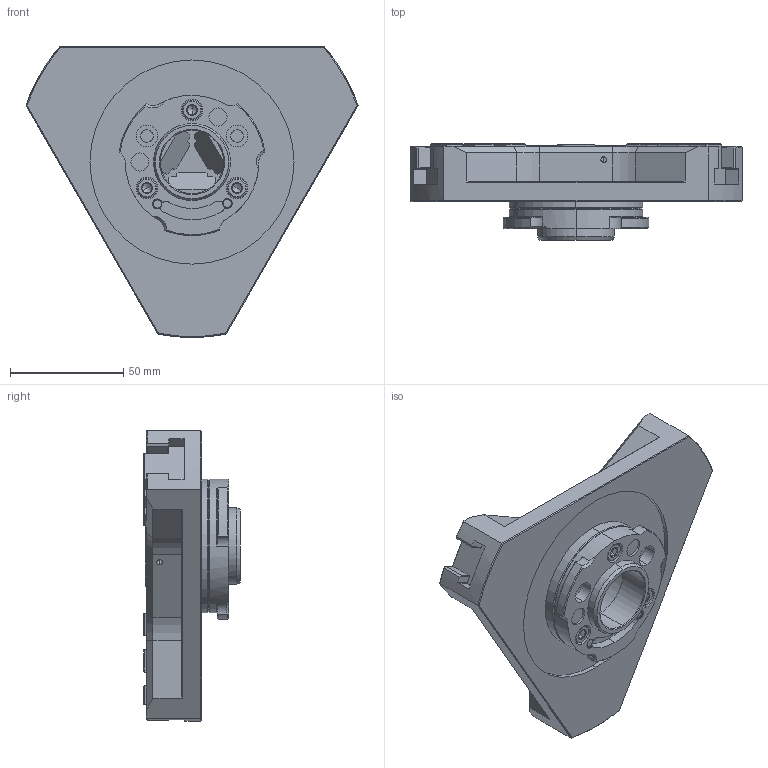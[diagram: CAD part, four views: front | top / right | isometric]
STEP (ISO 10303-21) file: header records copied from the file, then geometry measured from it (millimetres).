
FILE_DESCRIPTION (( 'STEP AP214' ), '1' );
FILE_NAME ('HP-QG30815-Assy-61G841491-20241129-OC.STEP', '2024-11-29T01:06:04', ( '' ), ( '' ), 'SwSTEP 2.0', 'SolidWorks 2022', '' );
FILE_SCHEMA (( 'AUTOMOTIVE_DESIGN' ));
Length unit declared in the file: millimetre
Products named in the file (8): HEIKOU PIN^HP-QG30815; MASTER JAW^HP-QG30815; BODY^HP-QG30815; RING^HP-QG30815; HP-QG30815-Assy-61G841491-20241129-OC; S-SARA^HP-QG30815; COVER^HP-QG30815; BOLT^HP-QG30815
Assembly tree (14 placements, depth 2):
  HP-QG30815-Assy-61G841491-20241129-OC
    BODY^HP-QG30815
    RING^HP-QG30815
    COVER^HP-QG30815
    MASTER JAW^HP-QG30815  x3
    BOLT^HP-QG30815  x3
    S-SARA^HP-QG30815  x3
    HEIKOU PIN^HP-QG30815  x2
Bounding box: 146.69 x 42.5 x 128.47 mm (x, y, z)
Volume: 242171.4 mm3; surface area: 77569.3 mm2
Topology: 14 solids, 14 shells, 1748 faces, 4803 edges, 3121 vertices
Faces by surface type: plane 1227, cylinder 193, bspline 160, cone 159, torus 9
Entity records: 55106 total; most frequent: CARTESIAN_POINT 16985, ORIENTED_EDGE 8370, DIRECTION 6832, EDGE_CURVE 4185, VECTOR 3364, LINE 3364, VERTEX_POINT 2761, AXIS2_PLACEMENT_3D 1734
